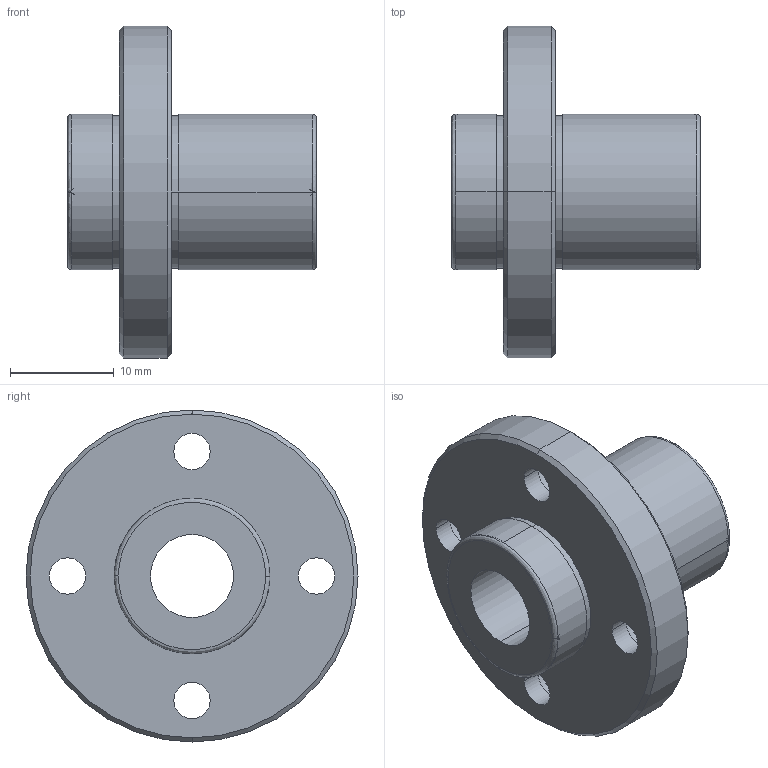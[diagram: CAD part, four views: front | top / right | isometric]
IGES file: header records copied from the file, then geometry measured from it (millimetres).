
Start section: 3D InterOp IGES (Version 21 0 1), Spatial Corp. Copyright (c) 1999-2007.
Global section: file name: NFID-8VUU.igs; native system: Spatial Corp.; preprocessor: 3D InterOp GENERIC/IGES 3.0; author: Noname; organization: Noname; date: 20220308.111949; units: millimetre
Bounding box: 24 x 32 x 32 mm (x, y, z)
Surface area: 4044.6 mm2 (no closed solid volume)
Topology: 0 solids, 0 shells, 46 faces, 212 edges, 208 vertices
Faces by surface type: revolution 36, extrusion 10
